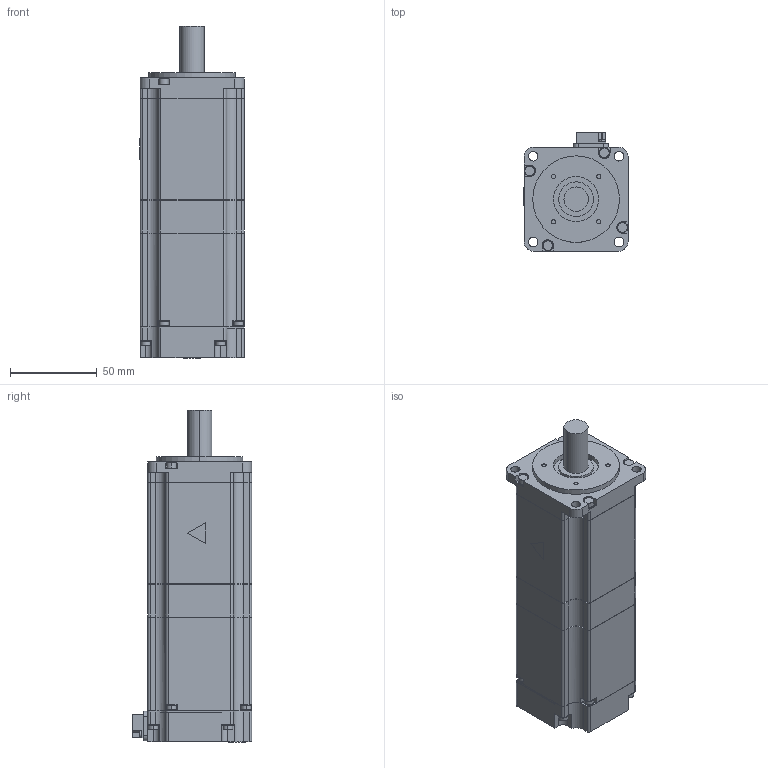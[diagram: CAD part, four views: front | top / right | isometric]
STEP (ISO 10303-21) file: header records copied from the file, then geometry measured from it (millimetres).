
FILE_DESCRIPTION (( 'STEP AP203' ), '1' );
FILE_NAME ('sgm7j_06a_a2c.STEP', '2015-12-21T22:35:43', ( '匠エンジニアリング山之内' ), ( 'TAKUMI-Engniaring' ), 'SwSTEP 2.0', 'SolidWorks 2006303', '' );
FILE_SCHEMA (( 'CONFIG_CONTROL_DESIGN' ));
Length unit declared in the file: millimetre
Products named in the file (1): sgm7j_06a_a2c
Bounding box: 60.1 x 68.8 x 191.6 mm (x, y, z)
Volume: 524118.1 mm3; surface area: 49984.3 mm2
Topology: 1 solids, 1 shells, 503 faces, 1322 edges, 876 vertices
Faces by surface type: plane 278, cylinder 225
Entity records: 15719 total; most frequent: DIRECTION 2796, CARTESIAN_POINT 2716, ORIENTED_EDGE 2644, EDGE_CURVE 1322, AXIS2_PLACEMENT_3D 972, VERTEX_POINT 876, VECTOR 852, LINE 852
